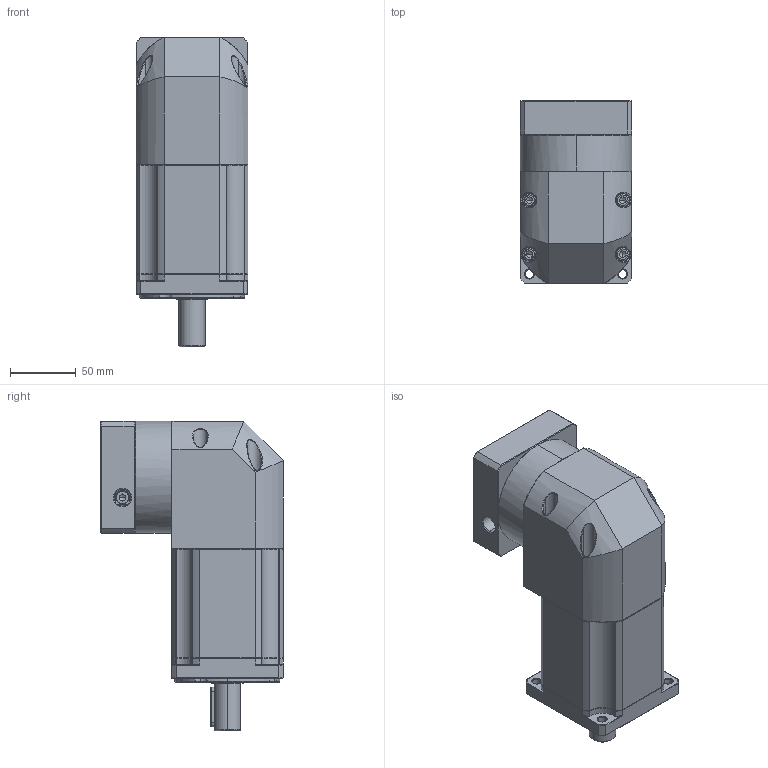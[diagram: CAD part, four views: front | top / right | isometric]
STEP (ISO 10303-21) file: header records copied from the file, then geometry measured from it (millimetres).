
FILE_DESCRIPTION (( 'STEP AP214' ), '1' );
FILE_NAME ('ZBR090-D20-L3-P2-19-80-100-M6.step', '2023-08-19T02:04:34', ( '' ), ( '' ), 'SwSTEP 2.0', 'SolidWorks 2016', '' );
FILE_SCHEMA (( 'AUTOMOTIVE_DESIGN' ));
Length unit declared in the file: millimetre
Products named in the file (1): ZBR090-D20-L3-P2-19-80-100-M6
Bounding box: 85 x 138.6 x 235 mm (x, y, z)
Volume: 1493440.6 mm3; surface area: 145151.7 mm2
Topology: 5 solids, 5 shells, 2407 faces, 6285 edges, 3972 vertices
Faces by surface type: plane 1155, cylinder 449, bspline 421, cone 356, torus 26
Entity records: 129574 total; most frequent: CARTESIAN_POINT 47631, ORIENTED_EDGE 12494, DIRECTION 9948, EDGE_CURVE 6247, VERTEX_POINT 3972, LINE 3960, VECTOR 3960, AXIS2_PLACEMENT_3D 2994
